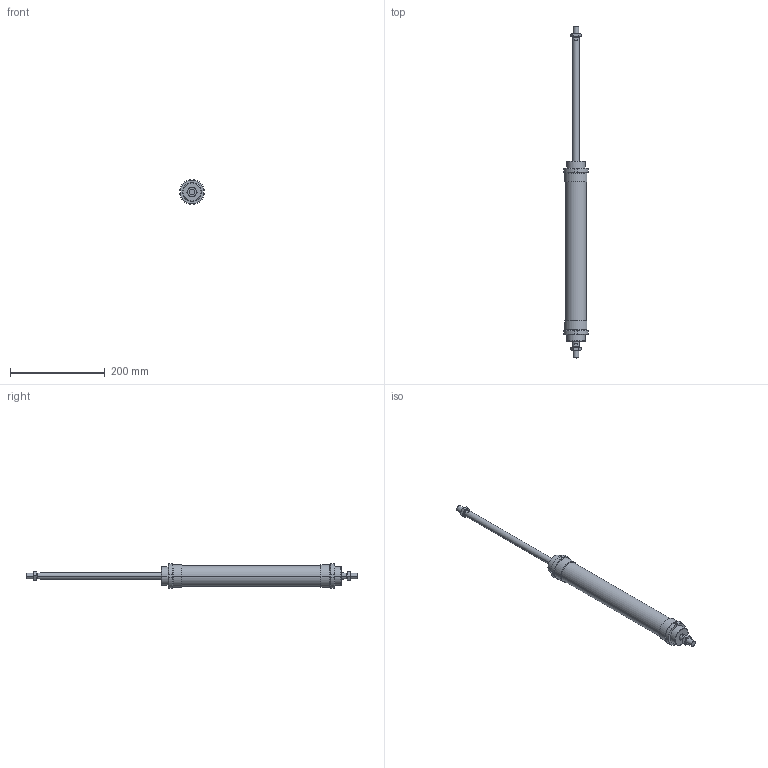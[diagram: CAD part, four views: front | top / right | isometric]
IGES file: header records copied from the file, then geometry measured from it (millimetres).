
Global section: file name: No Iges File Name specified; native system: AutoDesk Inventor R6.0; preprocessor: AutoDesk Inventor Iges Exporter R6.0; author: No Author specified; organization: No Organization specified; date: 20030403.072846; units: millimetre
Bounding box: 51.76 x 699 x 51.76 mm (x, y, z)
Volume: 636172.2 mm3; surface area: 115061.7 mm2
Topology: 6 solids, 6 shells, 182 faces, 424 edges, 264 vertices
Faces by surface type: plane 66, cone 52, bspline 30, cylinder 28, revolution 6
